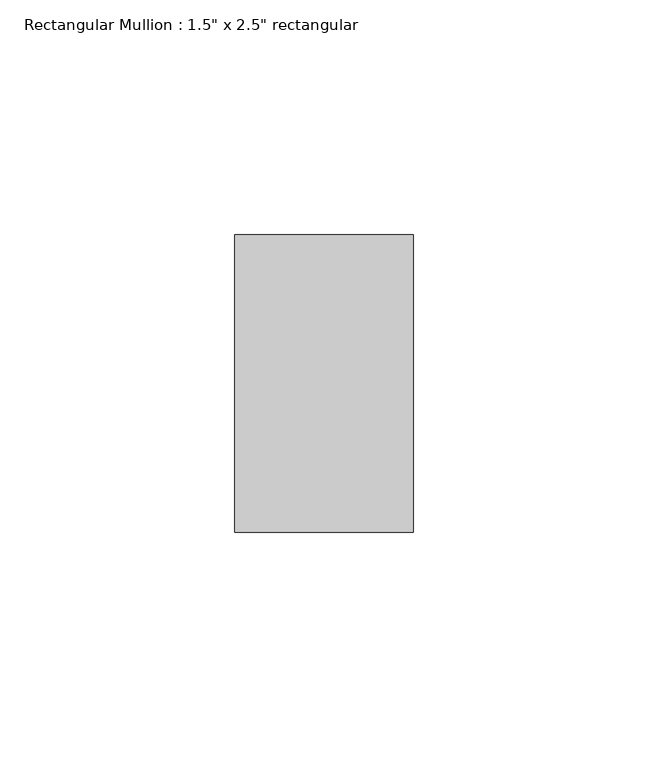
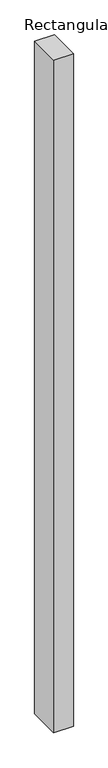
"""IFC4 building model written with IfcOpenShell, lengths in millimetres: member geometry."""

from ifc_helpers import new_model, si_unit, frame, origin, place, context, project, spatial, polyline, outline, extrude, source, transform, mapped, element, save


def member_d2b3dc28(model_context):
    return source(origin(), model_context, "Body", "SweptSolid", [
        extrude(outline(polyline([(19.05, 31.75), (19.05, -31.75), (-19.05, -31.75), (-19.05, 31.75), (19.05, 31.75)])), frame((0.0, 0.0, -1376.905364), z_axis=(0.0, 0.0, 1.0), x_axis=(1.0, 0.0, 0.0)), (0.0, 0.0, 1.0), 1376.905364),
    ])


if __name__ == "__main__":
    model = new_model("IFC4")
    model_context = context("Model", 3, world=origin())
    ifc_project = project(units=[si_unit("LENGTHUNIT", "METRE", prefix="MILLI")], contexts=[model_context])
    site = spatial("IfcSite", under=ifc_project)
    building = spatial("IfcBuilding", under=site)
    placement = place(None, origin())
    member_shape = member_d2b3dc28(model_context)
    element("IfcMember", 1, ObjectType="Rectangular Mullion : 1.5\" x 2.5\" rectangular", at=placement, inside=building, context=model_context, shape_type="MappedRepresentation", body=[
        mapped(member_shape, transform((0.0, 0.0, 0.0), x_axis=(1.0, 0.0, 0.0), y_axis=(0.0, 1.0, 0.0), z_axis=(0.0, 0.0, 1.0))),
    ])
    save(model, "model.ifc")
